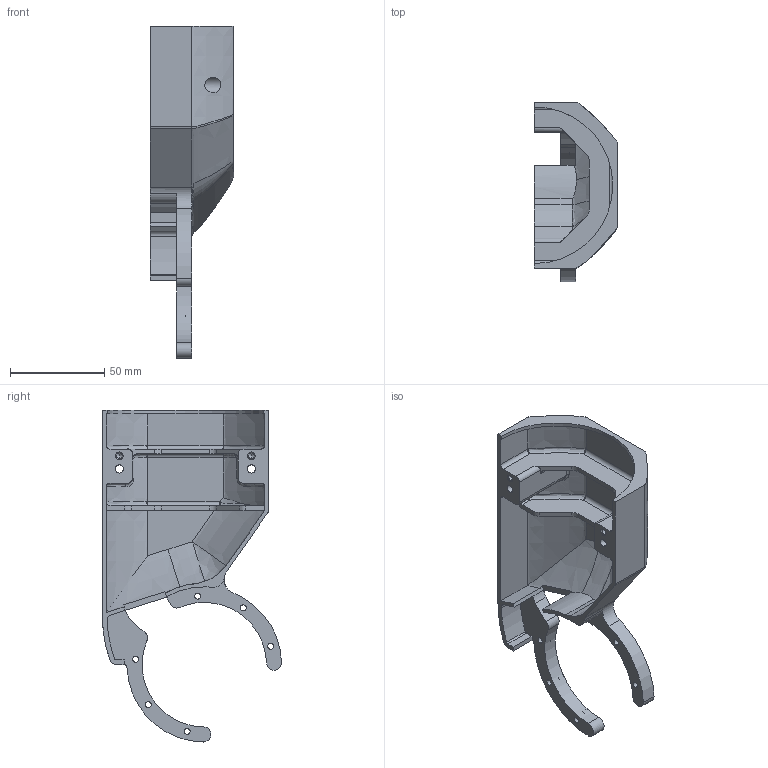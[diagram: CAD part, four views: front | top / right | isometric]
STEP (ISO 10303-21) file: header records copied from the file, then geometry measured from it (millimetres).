
FILE_DESCRIPTION((''),'2;1');
FILE_NAME('KD-C-302L_LOWERBICEPIDLE_1','2025-07-12T13:21:40',('Administrator'),(''),'CREO PARAMETRIC BY PTC INC, 2022073','CREO PARAMETRIC BY PTC INC, 2022073','');
FILE_SCHEMA(('CONFIG_CONTROL_DESIGN'));
Length unit declared in the file: millimetre
Products named in the file (1): KD-C-302L_LOWERBICEPIDLE_1
Bounding box: 44 x 94.98 x 176 mm (x, y, z)
Volume: 68100 mm3; surface area: 46332.7 mm2
Topology: 1 solids, 1 shells, 203 faces, 543 edges, 334 vertices
Faces by surface type: cylinder 84, plane 53, bspline 27, cone 24, extrusion 14, revolution 1
Entity records: 11358 total; most frequent: CARTESIAN_POINT 6492, ORIENTED_EDGE 1052, DIRECTION 928, EDGE_CURVE 526, AXIS2_PLACEMENT_3D 337, VERTEX_POINT 334, VECTOR 253, LINE 239
